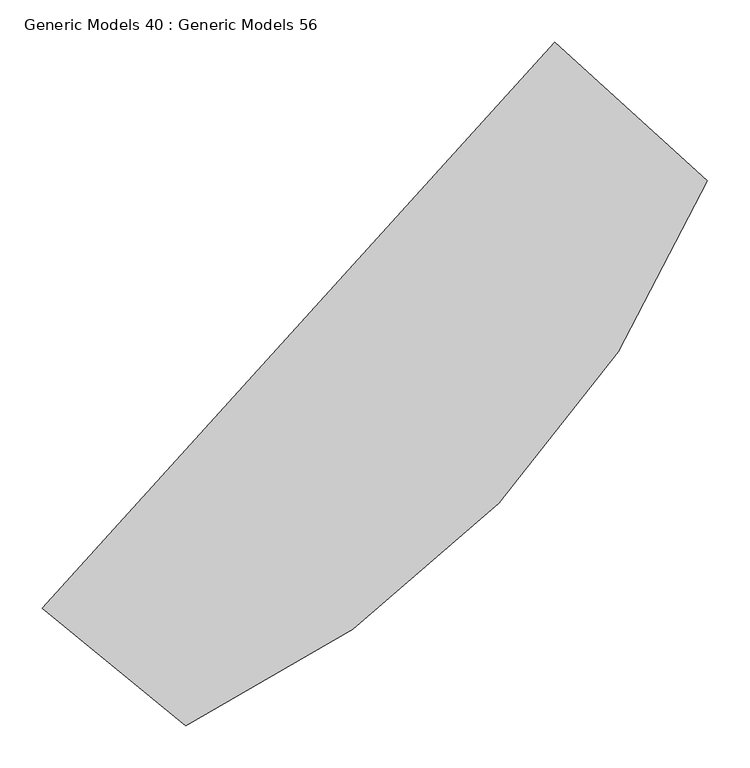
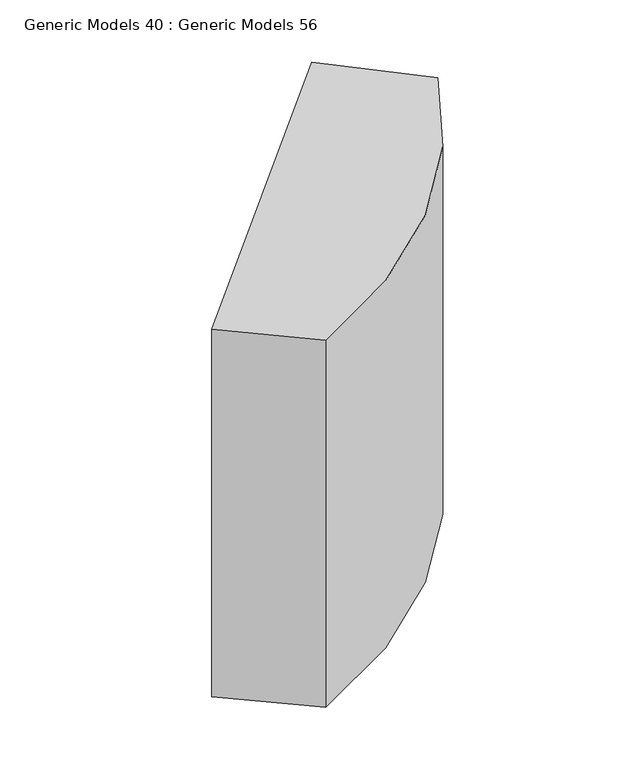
"""IFC4 building model written with IfcOpenShell, lengths in millimetres: proxy geometry, Generic Models 40 : Generic Models 56."""

from ifc_helpers import new_model, si_unit, point, frame_2d, origin, origin_with_axes, place, context, project, spatial, polyline, circle_curve, trimmed, segment, composite_curve, outline, extrude, source, transform, mapped, element, save


def generic_models_40_generic_models_56_eda5a1a0(model_context):
    return source(origin(), model_context, "Body", "SweptSolid", [
        extrude(outline(composite_curve([segment(trimmed(circle_curve(frame_2d((-4031.1652234, 2970.8107952)), 1205.5136337), [point((-2913.6350391, 2518.716327))], [point((-3531.1216417, 1873.8971534))], False, "CARTESIAN"), True, "CONTINUOUS"), segment(polyline([(-3531.1216417, 1873.8971534), (-3700.5930737, 2012.7067288), (-3094.2950299, 2682.2991266), (-2913.6350391, 2518.716327)]), True, "CONTINUOUS")], self_intersect=False)), origin_with_axes(), (0.0, 0.0, 1.0), 850.0),
    ])


if __name__ == "__main__":
    model = new_model("IFC4")
    model_context = context("Model", 3, world=origin())
    ifc_project = project(units=[si_unit("LENGTHUNIT", "METRE", prefix="MILLI")], contexts=[model_context])
    site = spatial("IfcSite", under=ifc_project)
    building = spatial("IfcBuilding", under=site)
    placement = place(None, origin())
    generic_models_40_generic_models_56_shape = generic_models_40_generic_models_56_eda5a1a0(model_context)
    element("IfcBuildingElementProxy", 1, Name="Generic Models 40 : Generic Models 56", ObjectType="Generic Models 40 : Generic Models 56", at=placement, inside=building, context=model_context, shape_type="MappedRepresentation", body=[
        mapped(generic_models_40_generic_models_56_shape, transform((0.0, 0.0, 0.0), x_axis=(1.0, 0.0, 0.0), y_axis=(0.0, 1.0, 0.0), z_axis=(0.0, 0.0, 1.0))),
    ])
    save(model, "model.ifc")
